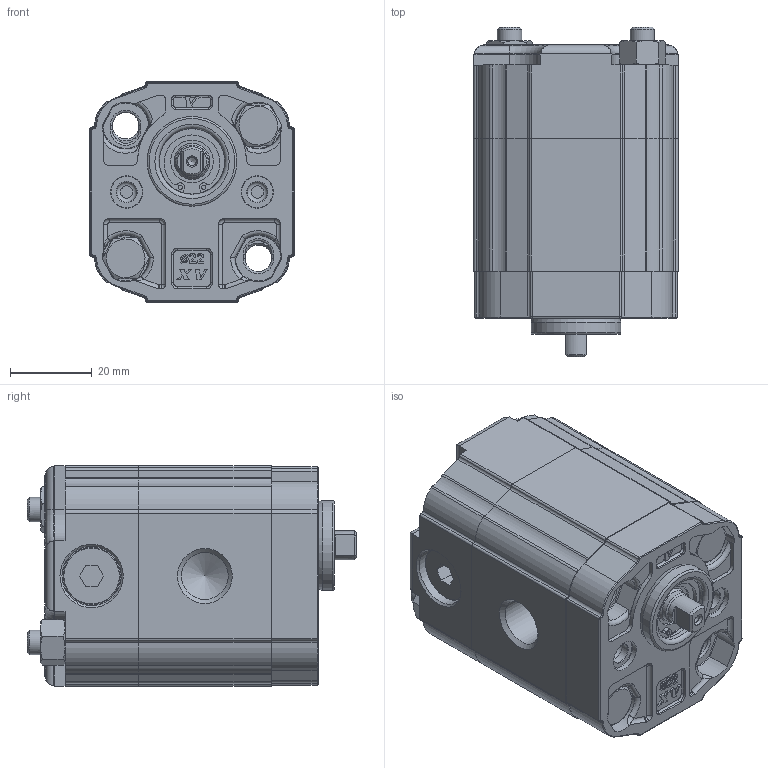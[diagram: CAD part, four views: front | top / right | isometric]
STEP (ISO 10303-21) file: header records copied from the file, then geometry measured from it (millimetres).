
FILE_DESCRIPTION(/* description */ ('Unknown'),/* implementation_level */ '2;1');
FILE_NAME(/* name */ 'X0M0521BBBF',/* time_stamp */ '2021-06-04T14:09:24+02:00',/* author */ ('Unknown'),/* organization */ ('Unknown'),/* preprocessor_version */ 'ST-DEVELOPER v16.7',/* originating_system */ 'Solid Edge',/* authorisation */ 'Unknown');
FILE_SCHEMA (('AUTOMOTIVE_DESIGN {1 0 10303 214 3 1 1}'));
Length unit declared in the file: millimetre
Products named in the file (5): X0M0521BBBF; X0M21; 0B; X0BBH32,5; XM017-F
Assembly tree (4 placements, depth 2):
  X0M0521BBBF
    X0M21
    0B
    X0BBH32,5
    XM017-F
Bounding box: 50 x 80.8 x 54 mm (x, y, z)
Volume: 147635.8 mm3; surface area: 38477.3 mm2
Topology: 4 solids, 9 shells, 813 faces, 2079 edges, 1319 vertices
Faces by surface type: plane 350, cylinder 289, cone 71, torus 69, bspline 30, sphere 4
Full cylindrical faces by diameter (mm): 1.053 x2, 2 x1, 5 x2, 6 x4, 6.01 x2, 6.5 x6, 7.16 x1, 7.5 x2, 7.9 x2, 7.92 x1, 8 x2, 8.1 x2, 8.566 x6, 9.318 x1, 10 x4, 10.445 x1, 11 x1, 11.445 x2, 14 x5, 14.5 x2, 16 x1, 16.2 x1, 16.8 x1, 22 x1
Entity records: 29928 total; most frequent: CARTESIAN_POINT 4876, DIRECTION 4145, ORIENTED_EDGE 3862, EDGE_CURVE 1931, AXIS2_PLACEMENT_3D 1563, VERTEX_POINT 1279, LINE 1019, VECTOR 1019
